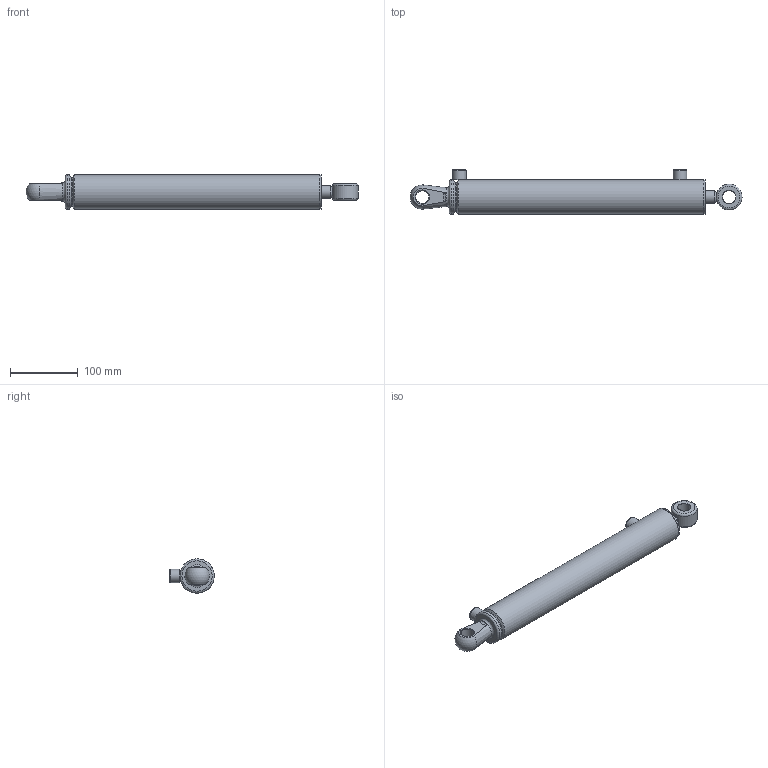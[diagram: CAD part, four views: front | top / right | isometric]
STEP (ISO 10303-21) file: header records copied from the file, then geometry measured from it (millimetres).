
FILE_DESCRIPTION(/* description */ ('Alibre Inc.'),/* implementation_level */ '2;1');
FILE_NAME(/* name */ 'export0',/* time_stamp */ '2016-08-16T09:47:04+12:00',/* author */ (''),/* organization */ (''),/* preprocessor_version */ 'ST-DEVELOPER v14',/* originating_system */ 'Alibre',/* authorisation */ '');
FILE_SCHEMA (('AUTOMOTIVE_DESIGN'));
Length unit declared in the file: centimetre
Bounding box: 491.28 x 65.8 x 50.8 mm (x, y, z)
Volume: 549602.6 mm3; surface area: 168003 mm2
Topology: 11 solids, 11 shells, 109 faces, 207 edges, 128 vertices
Faces by surface type: cylinder 38, plane 37, cone 21, torus 10, bspline 2, sphere 1
Full cylindrical faces by diameter (mm): 3 x2, 5.588 x1, 11.9 x2, 14.33 x2, 19.05 x3, 19.1 x2, 19.6 x1, 20 x2, 22.86 x1, 25.42 x1, 25.705 x1, 25.9 x1, 31.85 x1, 31.92 x1, 33.884 x1, 35.56 x1, 37.44 x3, 38 x3, 38.1 x2, 41.148 x1, 41.275 x2, 43.646 x1, 50.8 x3
Entity records: 3066 total; most frequent: CARTESIAN_POINT 989, DIRECTION 393, ORIENTED_EDGE 234, AXIS2_PLACEMENT_3D 218, EDGE_LOOP 204, FACE_BOUND 204, EDGE_CURVE 117, VERTEX_POINT 113
